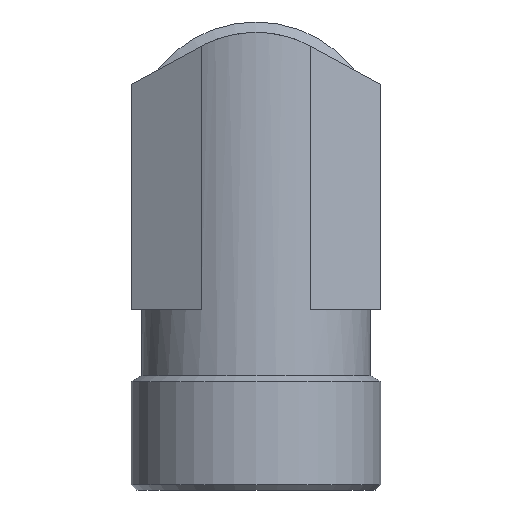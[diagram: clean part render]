
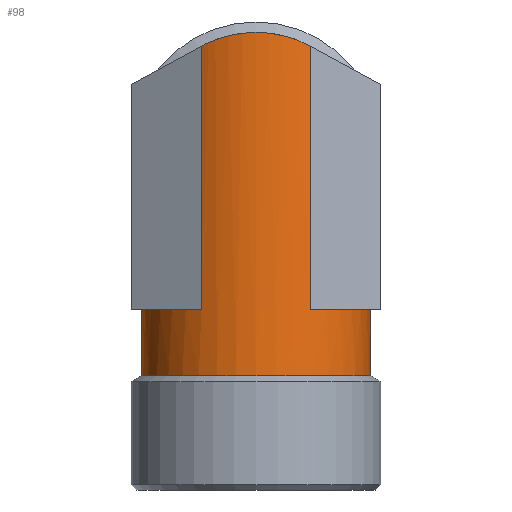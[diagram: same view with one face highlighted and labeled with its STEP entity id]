
A CAD part, left-side view. The second image highlights one B-rep face of the part: STEP entity #98.
In plain terms, the highlighted cylindrical face has radius 11 mm (diameter 22 mm), a full revolution.
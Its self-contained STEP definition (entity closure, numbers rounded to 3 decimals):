
#98 = ADVANCED_FACE( '', ( #222, #223 ), #224, .T. );
#222 = FACE_OUTER_BOUND( '', #373, .T. );
#223 = FACE_OUTER_BOUND( '', #374, .T. );
#224 = CYLINDRICAL_SURFACE( '', #375, 11. );
#373 = EDGE_LOOP( '', ( #589, #590, #591, #592, #593, #594, #595, #596 ) );
#374 = EDGE_LOOP( '', ( #597 ) );
#375 = AXIS2_PLACEMENT_3D( '', #598, #599, #600 );
#589 = ORIENTED_EDGE( '', *, *, #839, .F. );
#590 = ORIENTED_EDGE( '', *, *, #783, .F. );
#591 = ORIENTED_EDGE( '', *, *, #821, .F. );
#592 = ORIENTED_EDGE( '', *, *, #792, .T. );
#593 = ORIENTED_EDGE( '', *, *, #840, .F. );
#594 = ORIENTED_EDGE( '', *, *, #841, .F. );
#595 = ORIENTED_EDGE( '', *, *, #824, .F. );
#596 = ORIENTED_EDGE( '', *, *, #842, .F. );
#597 = ORIENTED_EDGE( '', *, *, #843, .F. );
#598 = CARTESIAN_POINT( '', ( 0., 0., 11. ) );
#599 = DIRECTION( '', ( 0., 0., 1. ) );
#600 = DIRECTION( '', ( -1., 0., 0. ) );
#783 = EDGE_CURVE( '', #902, #904, #905, .T. );
#792 = EDGE_CURVE( '', #918, #919, #920, .T. );
#821 = EDGE_CURVE( '', #918, #902, #964, .F. );
#824 = EDGE_CURVE( '', #967, #969, #970, .F. );
#839 = EDGE_CURVE( '', #904, #992, #993, .F. );
#840 = EDGE_CURVE( '', #994, #919, #995, .F. );
#841 = EDGE_CURVE( '', #969, #994, #996, .T. );
#842 = EDGE_CURVE( '', #992, #967, #997, .F. );
#843 = EDGE_CURVE( '', #998, #998, #999, .T. );
#902 = VERTEX_POINT( '', #1076 );
#904 = VERTEX_POINT( '', #1079 );
#905 = LINE( '', #1080, #1081 );
#918 = VERTEX_POINT( '', #1095 );
#919 = VERTEX_POINT( '', #1096 );
#920 = LINE( '', #1097, #1098 );
#964 = ELLIPSE( '', #1160, 15.556, 11. );
#967 = VERTEX_POINT( '', #1163 );
#969 = VERTEX_POINT( '', #1166 );
#970 = ELLIPSE( '', #1167, 15.556, 11. );
#992 = VERTEX_POINT( '', #1223 );
#993 = CIRCLE( '', #1224, 11. );
#994 = VERTEX_POINT( '', #1225 );
#995 = CIRCLE( '', #1226, 11. );
#996 = LINE( '', #1227, #1228 );
#997 = LINE( '', #1229, #1230 );
#998 = VERTEX_POINT( '', #1231 );
#999 = CIRCLE( '', #1232, 11. );
#1076 = CARTESIAN_POINT( '', ( -9.666, -5.25, 9.666 ) );
#1079 = CARTESIAN_POINT( '', ( -9.666, -5.25, -15.652 ) );
#1080 = CARTESIAN_POINT( '', ( -9.666, -5.25, 16.462 ) );
#1081 = VECTOR( '', #1312, 1000. );
#1095 = CARTESIAN_POINT( '', ( -9.666, 5.25, 9.666 ) );
#1096 = CARTESIAN_POINT( '', ( -9.666, 5.25, -15.652 ) );
#1097 = CARTESIAN_POINT( '', ( -9.666, 5.25, 16.462 ) );
#1098 = VECTOR( '', #1326, 1000. );
#1160 = AXIS2_PLACEMENT_3D( '', #1354, #1355, #1356 );
#1163 = CARTESIAN_POINT( '', ( 6., -9.22, -6. ) );
#1166 = CARTESIAN_POINT( '', ( 6., 9.22, -6. ) );
#1167 = AXIS2_PLACEMENT_3D( '', #1361, #1362, #1363 );
#1223 = CARTESIAN_POINT( '', ( 6., -9.22, -15.652 ) );
#1224 = AXIS2_PLACEMENT_3D( '', #1383, #1384, #1385 );
#1225 = CARTESIAN_POINT( '', ( 6., 9.22, -15.652 ) );
#1226 = AXIS2_PLACEMENT_3D( '', #1386, #1387, #1388 );
#1227 = CARTESIAN_POINT( '', ( 6., 9.22, 11. ) );
#1228 = VECTOR( '', #1389, 1000. );
#1229 = CARTESIAN_POINT( '', ( 6., -9.22, 11. ) );
#1230 = VECTOR( '', #1390, 1000. );
#1231 = CARTESIAN_POINT( '', ( -11., 0., -22. ) );
#1232 = AXIS2_PLACEMENT_3D( '', #1391, #1392, #1393 );
#1312 = DIRECTION( '', ( 0., 0., -1. ) );
#1326 = DIRECTION( '', ( 0., 0., -1. ) );
#1354 = CARTESIAN_POINT( '', ( 0., 0., 0. ) );
#1355 = DIRECTION( '', ( -0.707, 0., -0.707 ) );
#1356 = DIRECTION( '', ( -0.707, 0., 0.707 ) );
#1361 = CARTESIAN_POINT( '', ( 0., 0., 0. ) );
#1362 = DIRECTION( '', ( -0.707, 0., -0.707 ) );
#1363 = DIRECTION( '', ( -0.707, 0., 0.707 ) );
#1383 = CARTESIAN_POINT( '', ( 0., 0., -15.652 ) );
#1384 = DIRECTION( '', ( 0., 0., -1. ) );
#1385 = DIRECTION( '', ( -1., 0., 0. ) );
#1386 = CARTESIAN_POINT( '', ( 0., 0., -15.652 ) );
#1387 = DIRECTION( '', ( 0., 0., -1. ) );
#1388 = DIRECTION( '', ( -1., 0., 0. ) );
#1389 = DIRECTION( '', ( 0., 0., -1. ) );
#1390 = DIRECTION( '', ( 0., 0., -1. ) );
#1391 = CARTESIAN_POINT( '', ( 0., 0., -22. ) );
#1392 = DIRECTION( '', ( 0., 0., -1. ) );
#1393 = DIRECTION( '', ( -1., 0., 0. ) );
